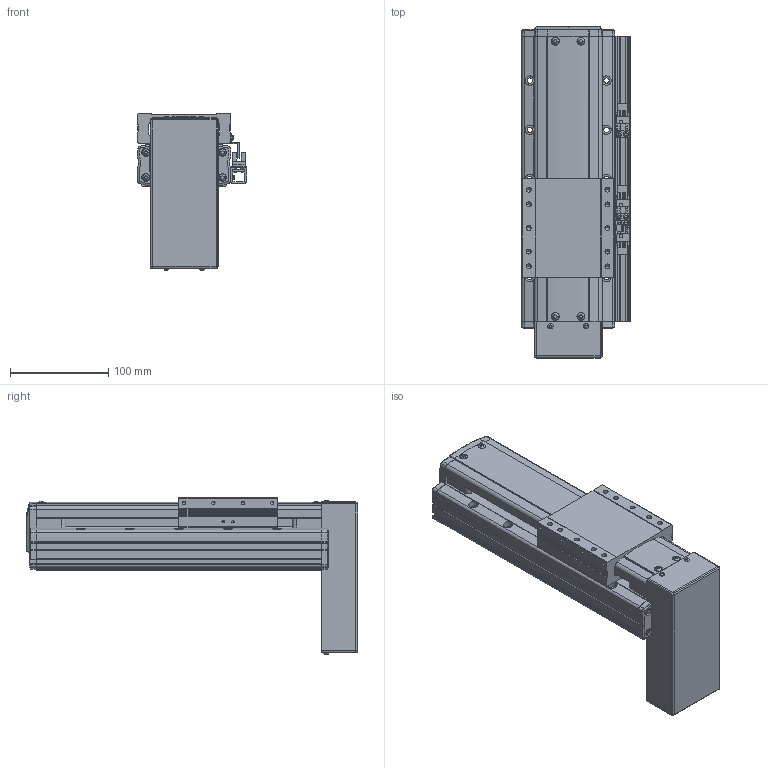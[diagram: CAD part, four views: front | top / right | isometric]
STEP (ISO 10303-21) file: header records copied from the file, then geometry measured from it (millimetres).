
FILE_DESCRIPTION(('STEP AP214'),'1');
FILE_NAME('Z:/Web/3D/PSA95/STP/PSA95-100 (3D)/PSA95ㅁㅁ-100PB+3SR.stp','2014-07-02T23:38:51',(' '),(' '),'Spatial InterOp 3D',' ',' ');
FILE_SCHEMA(('automotive_design'));
Length unit declared in the file: millimetre
Products named in the file (47): BASE; RRCV; 스크루 : Round - M4.0 x 10.0; 너트 : Square - M10.0 x 220.7419; RR1500; FRCV-090; 스크루 : Round - M4.0 x 6.0; SLBL-PA90; MTPL COVER; 스크루 : Round - M3.0 x 6.0; 1; 2; EE-SX674; SBK-SX674-352; M3.0 x 6.0; SRL-16x17-380L; SGD-PA95; 스크루 : Round - M3.0 x 8.0
Bounding box: 111 x 337.5 x 159.57 mm (x, y, z)
Volume: 2117402.4 mm3; surface area: 298462.8 mm2
Topology: 47 solids, 47 shells, 2426 faces, 6421 edges, 4139 vertices
Faces by surface type: plane 1475, cylinder 637, cone 206, sphere 70, bspline 24, torus 14
Entity records: 97062 total; most frequent: CARTESIAN_POINT 15908, DIRECTION 12852, ORIENTED_EDGE 12634, EDGE_CURVE 6317, LINE 4378, VECTOR 4378, AXIS2_PLACEMENT_3D 4237, VERTEX_POINT 4139
